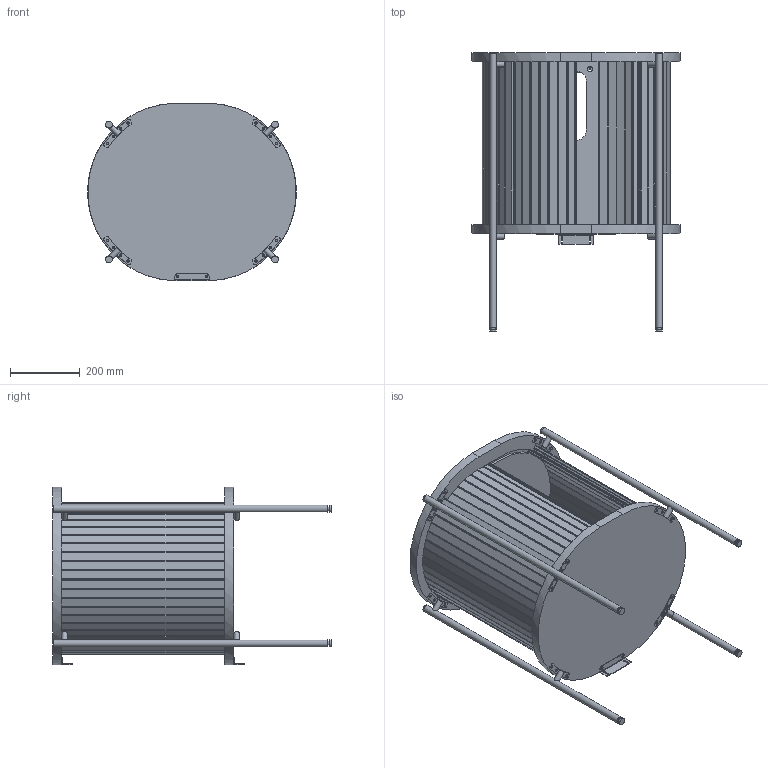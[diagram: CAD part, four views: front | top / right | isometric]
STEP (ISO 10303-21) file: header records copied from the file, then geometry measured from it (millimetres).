
FILE_DESCRIPTION (( 'STEP AP203' ), '1' );
FILE_NAME ('MBCL60S.STEP', '2025-05-21T09:59:47', ( '' ), ( '' ), 'SwSTEP 2.0', 'SolidWorks 2025', '' );
FILE_SCHEMA (( 'CONFIG_CONTROL_DESIGN' ));
Length unit declared in the file: millimetre
Products named in the file (12): Assieme SERRANDA MOBILE; MBCL60S; TAMPONATURA; DOGA serrandina; SQUADRETTA FIX; Assieme SERRANDA FISSA; serranda FISSA; MANIGLIA serrandina; PIANO SUPERIORE 60; GAMBA1_Default<A macchina>; PIANO INFERIORE 60; serranda MOBILE
Assembly tree (52 placements, depth 3):
  MBCL60S
    PIANO SUPERIORE 60
    GAMBA1_Default<A macchina>  x4
    PIANO INFERIORE 60
    SQUADRETTA FIX  x2
    Assieme SERRANDA MOBILE
      DOGA serrandina  x18
      MANIGLIA serrandina  x2
    Assieme SERRANDA FISSA  x2
      DOGA serrandina
    TAMPONATURA
  serranda FISSA
  serranda MOBILE
Bounding box: 600 x 801.4 x 510 mm (x, y, z)
Volume: 14439881.3 mm3; surface area: 5428193.6 mm2
Topology: 69 solids, 69 shells, 1913 faces, 5189 edges, 3458 vertices
Faces by surface type: cylinder 1029, plane 848, cone 36
Full cylindrical faces by diameter (mm): 5 x32, 7 x32, 10 x8, 12 x4, 14 x4, 15 x2, 16 x8, 20 x8, 80 x1
Entity records: 12720 total; most frequent: CARTESIAN_POINT 2128, DIRECTION 1886, ORIENTED_EDGE 1516, AXIS2_PLACEMENT_3D 760, EDGE_CURVE 758, VERTEX_POINT 542, EDGE_LOOP 468, FACE_OUTER_BOUND 384
